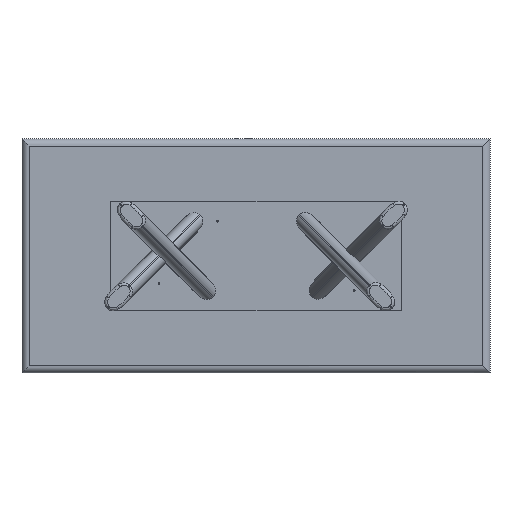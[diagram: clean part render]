
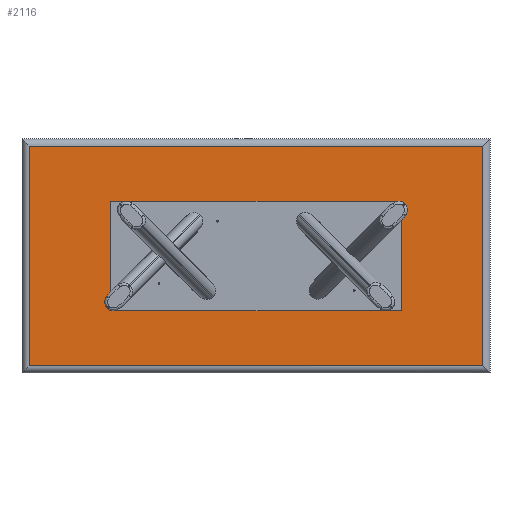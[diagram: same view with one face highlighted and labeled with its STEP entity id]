
A CAD part, front view. The second image highlights one B-rep face of the part: STEP entity #2116.
In plain terms, the highlighted planar face has unit normal (0, -1, 0).
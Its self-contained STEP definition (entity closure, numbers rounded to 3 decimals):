
#54 = DIRECTION ( 'NONE',  ( 0., 0., 1. ) ) ;
#87 = CARTESIAN_POINT ( 'NONE',  ( -1200., 40., 564. ) ) ;
#324 = AXIS2_PLACEMENT_3D ( 'NONE', #2141, #2892, #861 ) ;
#383 = EDGE_CURVE ( 'NONE', #794, #3044, #1023, .T. ) ;
#395 = CARTESIAN_POINT ( 'NONE',  ( 1200., 40., -564. ) ) ;
#517 = EDGE_LOOP ( 'NONE', ( #4129, #2975, #1727, #1896 ) ) ;
#719 = VERTEX_POINT ( 'NONE', #4091 ) ;
#725 = CARTESIAN_POINT ( 'NONE',  ( 1164., 40., -564. ) ) ;
#794 = VERTEX_POINT ( 'NONE', #1767 ) ;
#861 = DIRECTION ( 'NONE',  ( 0., 0., -1. ) ) ;
#1023 = LINE ( 'NONE', #395, #2699 ) ;
#1688 = CARTESIAN_POINT ( 'NONE',  ( -1164., 40., -600. ) ) ;
#1727 = ORIENTED_EDGE ( 'NONE', *, *, #1875, .T. ) ;
#1767 = CARTESIAN_POINT ( 'NONE',  ( -1164., 40., -564. ) ) ;
#1875 = EDGE_CURVE ( 'NONE', #3044, #2827, #3764, .T. ) ;
#1896 = ORIENTED_EDGE ( 'NONE', *, *, #3906, .T. ) ;
#2116 = ADVANCED_FACE ( 'NONE', ( #3230 ), #2831, .T. ) ;
#2141 = CARTESIAN_POINT ( 'NONE',  ( 0., 40., 0. ) ) ;
#2329 = VECTOR ( 'NONE', #3822, 1000. ) ;
#2377 = DIRECTION ( 'NONE',  ( 1., 0., 0. ) ) ;
#2489 = LINE ( 'NONE', #87, #2329 ) ;
#2660 = LINE ( 'NONE', #1688, #3546 ) ;
#2699 = VECTOR ( 'NONE', #2377, 1000. ) ;
#2730 = DIRECTION ( 'NONE',  ( 0., 0., -1. ) ) ;
#2827 = VERTEX_POINT ( 'NONE', #3534 ) ;
#2831 = PLANE ( 'NONE',  #324 ) ;
#2892 = DIRECTION ( 'NONE',  ( 0., -1., 0. ) ) ;
#2975 = ORIENTED_EDGE ( 'NONE', *, *, #383, .T. ) ;
#3044 = VERTEX_POINT ( 'NONE', #725 ) ;
#3115 = CARTESIAN_POINT ( 'NONE',  ( 1164., 40., 600. ) ) ;
#3230 = FACE_OUTER_BOUND ( 'NONE', #517, .T. ) ;
#3534 = CARTESIAN_POINT ( 'NONE',  ( 1164., 40., 564. ) ) ;
#3546 = VECTOR ( 'NONE', #2730, 1000. ) ;
#3732 = VECTOR ( 'NONE', #54, 1000. ) ;
#3764 = LINE ( 'NONE', #3115, #3732 ) ;
#3822 = DIRECTION ( 'NONE',  ( -1., 0., 0. ) ) ;
#3906 = EDGE_CURVE ( 'NONE', #2827, #719, #2489, .T. ) ;
#4021 = EDGE_CURVE ( 'NONE', #719, #794, #2660, .T. ) ;
#4091 = CARTESIAN_POINT ( 'NONE',  ( -1164., 40., 564. ) ) ;
#4129 = ORIENTED_EDGE ( 'NONE', *, *, #4021, .T. ) ;
